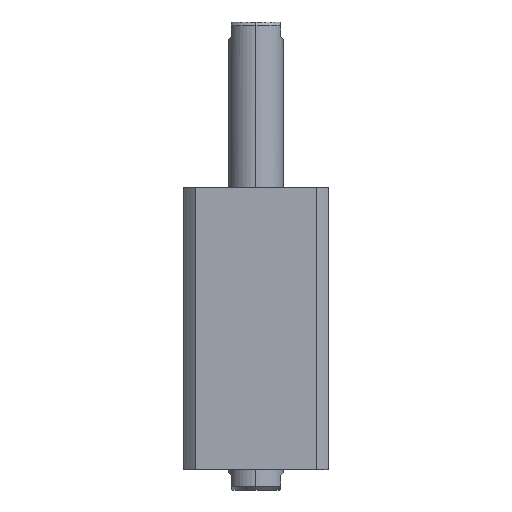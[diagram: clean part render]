
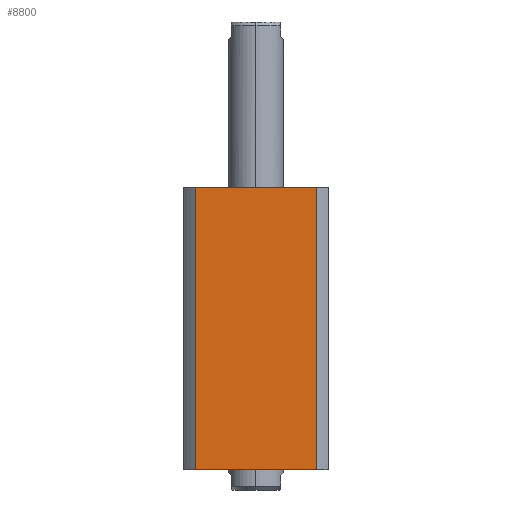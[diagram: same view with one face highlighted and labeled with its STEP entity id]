
A CAD part, left-side view. The second image highlights one B-rep face of the part: STEP entity #8800.
In plain terms, the highlighted planar face has unit normal (-1, 0, 0).
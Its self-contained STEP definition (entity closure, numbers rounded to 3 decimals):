
#217 = EDGE_CURVE ( 'NONE', #3248, #1630, #303, .T. ) ;
#303 = LINE ( 'NONE', #6442, #531 ) ;
#387 = VECTOR ( 'NONE', #8141, 1000. ) ;
#531 = VECTOR ( 'NONE', #1166, 1000. ) ;
#536 = DIRECTION ( 'NONE',  ( 0., 0., -1. ) ) ;
#673 = AXIS2_PLACEMENT_3D ( 'NONE', #4818, #1142, #1017 ) ;
#866 = LINE ( 'NONE', #3593, #9222 ) ;
#1017 = DIRECTION ( 'NONE',  ( 0., 1., 0. ) ) ;
#1061 = ORIENTED_EDGE ( 'NONE', *, *, #217, .F. ) ;
#1080 = PLANE ( 'NONE',  #673 ) ;
#1142 = DIRECTION ( 'NONE',  ( 1., 0., 0. ) ) ;
#1166 = DIRECTION ( 'NONE',  ( 0., 0., -1. ) ) ;
#1630 = VERTEX_POINT ( 'NONE', #3183 ) ;
#1735 = CARTESIAN_POINT ( 'NONE',  ( -40., 33.226, 77.5 ) ) ;
#2299 = EDGE_LOOP ( 'NONE', ( #8151, #1061, #5632, #9154 ) ) ;
#2997 = LINE ( 'NONE', #5924, #387 ) ;
#3183 = CARTESIAN_POINT ( 'NONE',  ( -40., -33.226, -77.5 ) ) ;
#3248 = VERTEX_POINT ( 'NONE', #3491 ) ;
#3491 = CARTESIAN_POINT ( 'NONE',  ( -40., -33.226, 77.5 ) ) ;
#3593 = CARTESIAN_POINT ( 'NONE',  ( -40., 33.226, 77.5 ) ) ;
#4527 = EDGE_CURVE ( 'NONE', #8987, #3248, #2997, .T. ) ;
#4818 = CARTESIAN_POINT ( 'NONE',  ( -40., 33.226, 77.5 ) ) ;
#5254 = CARTESIAN_POINT ( 'NONE',  ( -40., 33.226, -77.5 ) ) ;
#5632 = ORIENTED_EDGE ( 'NONE', *, *, #4527, .F. ) ;
#5758 = CARTESIAN_POINT ( 'NONE',  ( -40., 33.226, -77.5 ) ) ;
#5924 = CARTESIAN_POINT ( 'NONE',  ( -40., 33.226, 77.5 ) ) ;
#6442 = CARTESIAN_POINT ( 'NONE',  ( -40., -33.226, 77.5 ) ) ;
#6677 = EDGE_CURVE ( 'NONE', #8213, #1630, #9057, .T. ) ;
#7609 = EDGE_CURVE ( 'NONE', #8987, #8213, #866, .T. ) ;
#7901 = VECTOR ( 'NONE', #9511, 1000. ) ;
#8042 = FACE_OUTER_BOUND ( 'NONE', #2299, .T. ) ;
#8141 = DIRECTION ( 'NONE',  ( 0., -1., 0. ) ) ;
#8151 = ORIENTED_EDGE ( 'NONE', *, *, #6677, .T. ) ;
#8213 = VERTEX_POINT ( 'NONE', #5254 ) ;
#8800 = ADVANCED_FACE ( 'NONE', ( #8042 ), #1080, .F. ) ;
#8987 = VERTEX_POINT ( 'NONE', #1735 ) ;
#9057 = LINE ( 'NONE', #5758, #7901 ) ;
#9154 = ORIENTED_EDGE ( 'NONE', *, *, #7609, .T. ) ;
#9222 = VECTOR ( 'NONE', #536, 1000. ) ;
#9511 = DIRECTION ( 'NONE',  ( 0., -1., 0. ) ) ;
